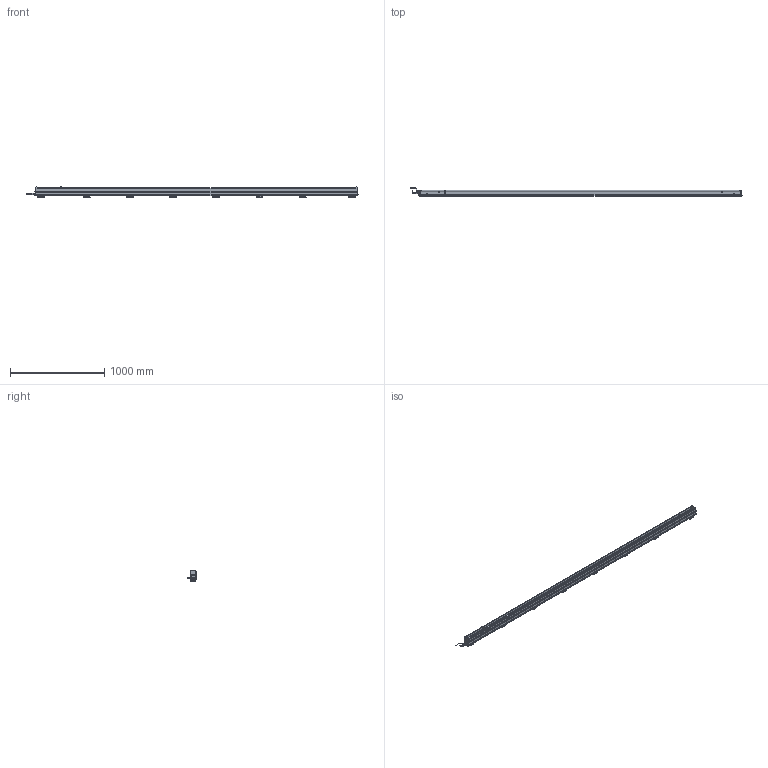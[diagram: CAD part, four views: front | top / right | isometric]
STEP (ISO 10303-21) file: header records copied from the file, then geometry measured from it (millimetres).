
FILE_DESCRIPTION(/* description */ (''),/* implementation_level */ '2;1');
FILE_NAME(/* name */ 'THUNDERION2_3D_3250-3445',/* time_stamp */ '2017-09-28T12:39:22+02:00',/* author */ (''),/* organization */ (''),/* preprocessor_version */ 'ST-DEVELOPER v15.7',/* originating_system */ 'HiCAD 2015 2002.1 Build 408',/* authorisation */ '');
FILE_SCHEMA (('AUTOMOTIVE_DESIGN { 1 0 10303 214 1 1 1 1 }'));
Products named in the file (136): Root; -_ThunderION 3250/3445; -_Side profile; -_Bar; -_Connector straight; EXTRUDED SOLID_0; -_Cord; REVOLVED SOLID_1; REVOLVED SOLID_3; DIN 13-M12x1,5; -_Connector angled; REVOLVED SOLID_2; 4532000100_Mounting bracket bars; -_Side piece; -_Slide piece; -_Bracket small; DIN 13-M3; DIN 76-M3; -_Cable End; light pipe M; light pipe L; -_Cap CE; -_Stud M4; -_Connector M12 male 5 pole_1; -_Contacts; ABSR_1_2_1_1_Inner part; ABSR_1_2_1_2_Inner part; bus; Pg 9; -_Ring tongue terminal; 9230000020_Nut M4; GEWINDE; 9240100020_Spring washer M4; ISO 7051-ST3.5x9.5-C-H_Tapping screws_0; -_Fill; -_Dead end; -_Cap DE; -_Emitter; -_Support Side Profile; -_End Plate
Assembly tree (135 placements, depth 6):
  Root
    -_ThunderION 3250/3445
      -_Side profile
      -_Side profile
      -_Bar
      -_Connector straight
        EXTRUDED SOLID_0
        -_Cord
        REVOLVED SOLID_1
        REVOLVED SOLID_3
          DIN 13-M12x1,5
      -_Connector angled
        REVOLVED SOLID_1
        EXTRUDED SOLID_0
        -_Cord
        REVOLVED SOLID_2
        REVOLVED SOLID_3
          DIN 13-M12x1,5
      4532000100_Mounting bracket bars
        -_Side piece
        -_Side piece
        -_Slide piece
        -_Bracket small
          DIN 13-M3
          DIN 13-M3
          DIN 76-M3
          DIN 76-M3
      4532000100_Mounting bracket bars
        -_Side piece
        -_Side piece
        -_Slide piece
        -_Bracket small
          DIN 13-M3
          DIN 13-M3
          DIN 76-M3
          DIN 76-M3
      4532000100_Mounting bracket bars
        -_Side piece
        -_Side piece
        -_Slide piece
        -_Bracket small
          DIN 13-M3
          DIN 13-M3
          DIN 76-M3
          DIN 76-M3
      4532000100_Mounting bracket bars
        -_Side piece
        -_Side piece
        -_Slide piece
        -_Bracket small
          DIN 13-M3
          DIN 13-M3
          DIN 76-M3
          DIN 76-M3
      4532000100_Mounting bracket bars
        -_Side piece
        -_Side piece
        -_Slide piece
        -_Bracket small
          DIN 13-M3
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Bounding box: 3523.34 x 92.25 x 113 mm (x, y, z)
Volume: 10886800.3 mm3; surface area: 2502292.1 mm2
Topology: 125 solids, 149 shells, 6779 faces, 17287 edges, 10425 vertices
Faces by surface type: plane 2767, cylinder 2754, bspline 376, torus 370, sphere 331, cone 181
Full cylindrical faces by diameter (mm): 0.8 x10, 1 x10, 2.387 x32, 2.5 x1, 2.64 x16, 3 x64, 3.141 x2, 3.5 x8, 4 x26, 4.2 x3, 4.4 x1, 5 x4, 5.5 x40, 7.3 x8, 8 x2, 8.4 x2, 9 x6, 9.6 x1, 10 x2, 10.16 x1, 10.5 x2, 11 x4, 12 x5, 12.8 x1, 13.8 x4, 13.86 x1, 14.5 x3, 15.199 x1, 15.2 x1
Entity records: 395991 total; most frequent: CARTESIAN_POINT 105810, DIRECTION 33565, PRESENTATION_STYLE_ASSIGNMENT 32755, OVER_RIDING_STYLED_ITEM 32634, DRAUGHTING_PRE_DEFINED_CURVE_FONT 32582, CURVE_STYLE 32582, ORIENTED_EDGE 32582, EDGE_CURVE 16291
